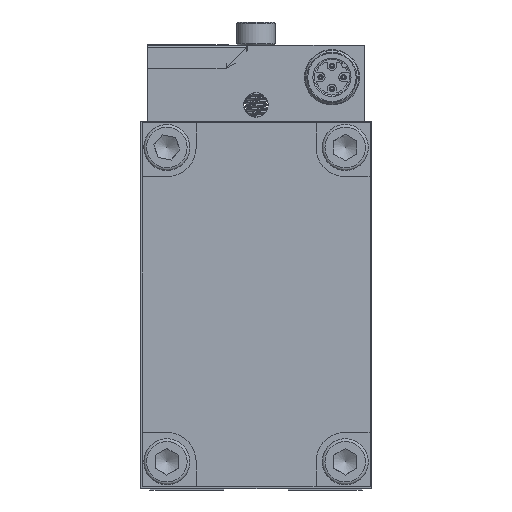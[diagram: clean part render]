
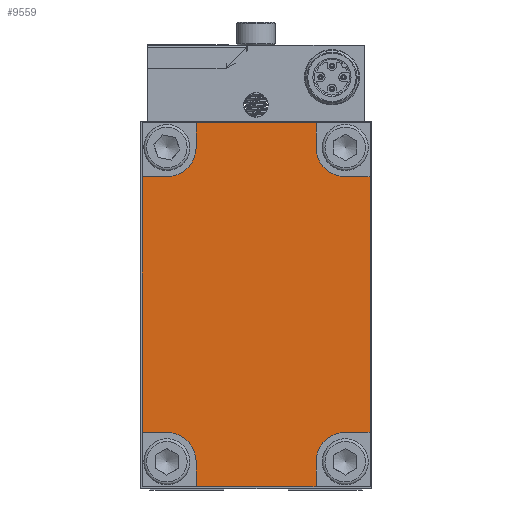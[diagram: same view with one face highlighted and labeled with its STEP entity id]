
A CAD part, left-side view. The second image highlights one B-rep face of the part: STEP entity #9559.
In plain terms, the highlighted planar face has unit normal (-1, 0, 0).
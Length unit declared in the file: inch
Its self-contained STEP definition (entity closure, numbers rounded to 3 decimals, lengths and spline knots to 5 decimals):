
#398=PLANE('',#10475);
#848=FACE_OUTER_BOUND('',#1389,.T.);
#1389=EDGE_LOOP('',(#8076,#8077,#8078,#8079,#8080,#8081,#8082,#8083,#8084,
#8085,#8086,#8087,#8088,#8089,#8090,#8091));
#1893=CIRCLE('',#10476,0.25);
#1894=CIRCLE('',#10477,0.25);
#1895=CIRCLE('',#10478,0.25);
#1896=CIRCLE('',#10479,0.25);
#2682=LINE('',#21264,#3378);
#2683=LINE('',#21266,#3379);
#2684=LINE('',#21268,#3380);
#2685=LINE('',#21272,#3381);
#2686=LINE('',#21274,#3382);
#2687=LINE('',#21276,#3383);
#2688=LINE('',#21280,#3384);
#2689=LINE('',#21282,#3385);
#2690=LINE('',#21284,#3386);
#2691=LINE('',#21288,#3387);
#2692=LINE('',#21290,#3388);
#2693=LINE('',#21292,#3389);
#3378=VECTOR('',#12836,0.3937);
#3379=VECTOR('',#12837,0.3937);
#3380=VECTOR('',#12838,0.3937);
#3381=VECTOR('',#12841,0.3937);
#3382=VECTOR('',#12842,0.3937);
#3383=VECTOR('',#12843,0.3937);
#3384=VECTOR('',#12846,0.3937);
#3385=VECTOR('',#12847,0.3937);
#3386=VECTOR('',#12848,0.3937);
#3387=VECTOR('',#12851,0.3937);
#3388=VECTOR('',#12852,0.3937);
#3389=VECTOR('',#12853,0.3937);
#4288=VERTEX_POINT('',#21262);
#4289=VERTEX_POINT('',#21263);
#4290=VERTEX_POINT('',#21265);
#4291=VERTEX_POINT('',#21267);
#4292=VERTEX_POINT('',#21269);
#4293=VERTEX_POINT('',#21271);
#4294=VERTEX_POINT('',#21273);
#4295=VERTEX_POINT('',#21275);
#4296=VERTEX_POINT('',#21277);
#4297=VERTEX_POINT('',#21279);
#4298=VERTEX_POINT('',#21281);
#4299=VERTEX_POINT('',#21283);
#4300=VERTEX_POINT('',#21285);
#4301=VERTEX_POINT('',#21287);
#4302=VERTEX_POINT('',#21289);
#4303=VERTEX_POINT('',#21291);
#5579=EDGE_CURVE('',#4288,#4289,#2682,.T.);
#5580=EDGE_CURVE('',#4289,#4290,#2683,.T.);
#5581=EDGE_CURVE('',#4290,#4291,#2684,.T.);
#5582=EDGE_CURVE('',#4291,#4292,#1893,.T.);
#5583=EDGE_CURVE('',#4292,#4293,#2685,.T.);
#5584=EDGE_CURVE('',#4293,#4294,#2686,.T.);
#5585=EDGE_CURVE('',#4294,#4295,#2687,.T.);
#5586=EDGE_CURVE('',#4295,#4296,#1894,.T.);
#5587=EDGE_CURVE('',#4296,#4297,#2688,.T.);
#5588=EDGE_CURVE('',#4297,#4298,#2689,.T.);
#5589=EDGE_CURVE('',#4298,#4299,#2690,.T.);
#5590=EDGE_CURVE('',#4299,#4300,#1895,.T.);
#5591=EDGE_CURVE('',#4300,#4301,#2691,.T.);
#5592=EDGE_CURVE('',#4301,#4302,#2692,.T.);
#5593=EDGE_CURVE('',#4302,#4303,#2693,.T.);
#5594=EDGE_CURVE('',#4303,#4288,#1896,.T.);
#8076=ORIENTED_EDGE('',*,*,#5579,.T.);
#8077=ORIENTED_EDGE('',*,*,#5580,.T.);
#8078=ORIENTED_EDGE('',*,*,#5581,.T.);
#8079=ORIENTED_EDGE('',*,*,#5582,.T.);
#8080=ORIENTED_EDGE('',*,*,#5583,.T.);
#8081=ORIENTED_EDGE('',*,*,#5584,.T.);
#8082=ORIENTED_EDGE('',*,*,#5585,.T.);
#8083=ORIENTED_EDGE('',*,*,#5586,.T.);
#8084=ORIENTED_EDGE('',*,*,#5587,.T.);
#8085=ORIENTED_EDGE('',*,*,#5588,.T.);
#8086=ORIENTED_EDGE('',*,*,#5589,.T.);
#8087=ORIENTED_EDGE('',*,*,#5590,.T.);
#8088=ORIENTED_EDGE('',*,*,#5591,.T.);
#8089=ORIENTED_EDGE('',*,*,#5592,.T.);
#8090=ORIENTED_EDGE('',*,*,#5593,.T.);
#8091=ORIENTED_EDGE('',*,*,#5594,.T.);
#9559=ADVANCED_FACE('',(#848),#398,.F.);
#10475=AXIS2_PLACEMENT_3D('',#21261,#12834,#12835);
#10476=AXIS2_PLACEMENT_3D('',#21270,#12839,#12840);
#10477=AXIS2_PLACEMENT_3D('',#21278,#12844,#12845);
#10478=AXIS2_PLACEMENT_3D('',#21286,#12849,#12850);
#10479=AXIS2_PLACEMENT_3D('',#21293,#12854,#12855);
#12834=DIRECTION('center_axis',(1.,0.,0.));
#12835=DIRECTION('ref_axis',(0.,1.,0.));
#12836=DIRECTION('',(0.,1.,0.));
#12837=DIRECTION('',(0.,0.,-1.));
#12838=DIRECTION('',(0.,-1.,0.));
#12839=DIRECTION('center_axis',(1.,0.,0.));
#12840=DIRECTION('ref_axis',(0.,-1.,0.));
#12841=DIRECTION('',(0.,0.,-1.));
#12842=DIRECTION('',(0.,-1.,0.));
#12843=DIRECTION('',(0.,0.,1.));
#12844=DIRECTION('center_axis',(1.,0.,0.));
#12845=DIRECTION('ref_axis',(0.,0.,
1.));
#12846=DIRECTION('',(0.,-1.,0.));
#12847=DIRECTION('',(0.,0.,1.));
#12848=DIRECTION('',(0.,1.,0.));
#12849=DIRECTION('center_axis',(1.,0.,0.));
#12850=DIRECTION('ref_axis',(0.,1.,0.));
#12851=DIRECTION('',(0.,0.,1.));
#12852=DIRECTION('',(0.,1.,0.));
#12853=DIRECTION('',(0.,0.,-1.));
#12854=DIRECTION('center_axis',(1.,0.,0.));
#12855=DIRECTION('ref_axis',(0.,0.,
-1.));
#21261=CARTESIAN_POINT('Origin',(-0.903,0.984,10.02762));
#21262=CARTESIAN_POINT('',(-0.903,1.7465,11.12062));
#21263=CARTESIAN_POINT('',(-0.903,1.9585,11.12062));
#21264=CARTESIAN_POINT('',(-0.903,1.36525,11.12062));
#21265=CARTESIAN_POINT('',(-0.903,1.9585,8.93462));
#21266=CARTESIAN_POINT('',(-0.903,1.9585,11.58262));
#21267=CARTESIAN_POINT('',(-0.903,1.7465,8.93462));
#21268=CARTESIAN_POINT('',(-0.903,1.47125,8.93462));
#21269=CARTESIAN_POINT('',(-0.903,1.4965,8.68462));
#21270=CARTESIAN_POINT('Origin',(-0.903,1.7465,8.68462));
#21271=CARTESIAN_POINT('',(-0.903,1.4965,8.47262));
#21272=CARTESIAN_POINT('',(-0.903,1.4965,9.35612));
#21273=CARTESIAN_POINT('',(-0.903,0.4715,8.47262));
#21274=CARTESIAN_POINT('',(-0.903,1.9585,8.47262));
#21275=CARTESIAN_POINT('',(-0.903,0.4715,8.68462));
#21276=CARTESIAN_POINT('',(-0.903,0.4715,9.25012));
#21277=CARTESIAN_POINT('',(-0.903,0.2215,8.93462));
#21278=CARTESIAN_POINT('Origin',(-0.903,0.2215,8.68462));
#21279=CARTESIAN_POINT('',(-0.903,0.0095,8.93462));
#21280=CARTESIAN_POINT('',(-0.903,0.60275,8.93462));
#21281=CARTESIAN_POINT('',(-0.903,0.0095,11.12062));
#21282=CARTESIAN_POINT('',(-0.903,0.0095,8.47262));
#21283=CARTESIAN_POINT('',(-0.903,0.2215,11.12062));
#21284=CARTESIAN_POINT('',(-0.903,0.49675,11.12062));
#21285=CARTESIAN_POINT('',(-0.903,0.4715,11.37062));
#21286=CARTESIAN_POINT('Origin',(-0.903,0.2215,11.37062));
#21287=CARTESIAN_POINT('',(-0.903,0.4715,11.58262));
#21288=CARTESIAN_POINT('',(-0.903,0.4715,10.69912));
#21289=CARTESIAN_POINT('',(-0.903,1.4965,11.58262));
#21290=CARTESIAN_POINT('',(-0.903,0.0095,11.58262));
#21291=CARTESIAN_POINT('',(-0.903,1.4965,11.37062));
#21292=CARTESIAN_POINT('',(-0.903,1.4965,10.80512));
#21293=CARTESIAN_POINT('Origin',(-0.903,1.7465,11.37062));
